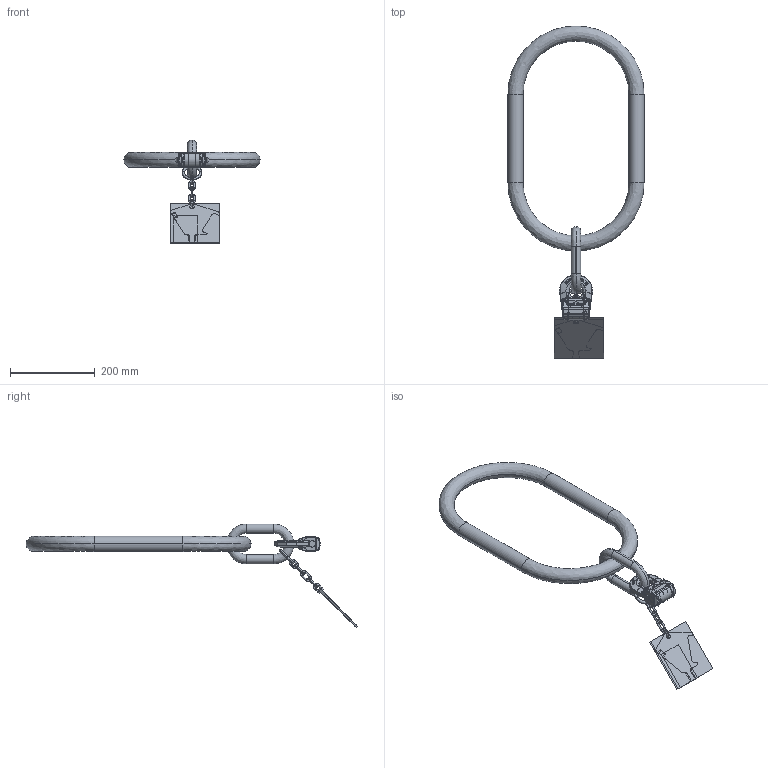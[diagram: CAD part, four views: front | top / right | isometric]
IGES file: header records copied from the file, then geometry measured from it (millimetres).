
Start section:  PTC IGES file: VSAK-1-13_250_7100697_M32082-P-2.igs
Global section: file name: VSAK-1-13_250_7100697_M32082-P-2.igs; native system: Pro/ENGINEER by Parametric Technology Corporation; preprocessor: 2010140; author: Andreas.Wendler; organization: Unknown; date: 20141024.103006; units: millimetre
Bounding box: 322 x 784.7 x 245.7 mm (x, y, z)
Volume: 1633076.9 mm3; surface area: 950521 mm2
Topology: 10 solids, 10 shells, 1130 faces, 5602 edges, 6936 vertices
Faces by surface type: bspline 710, revolution 420
